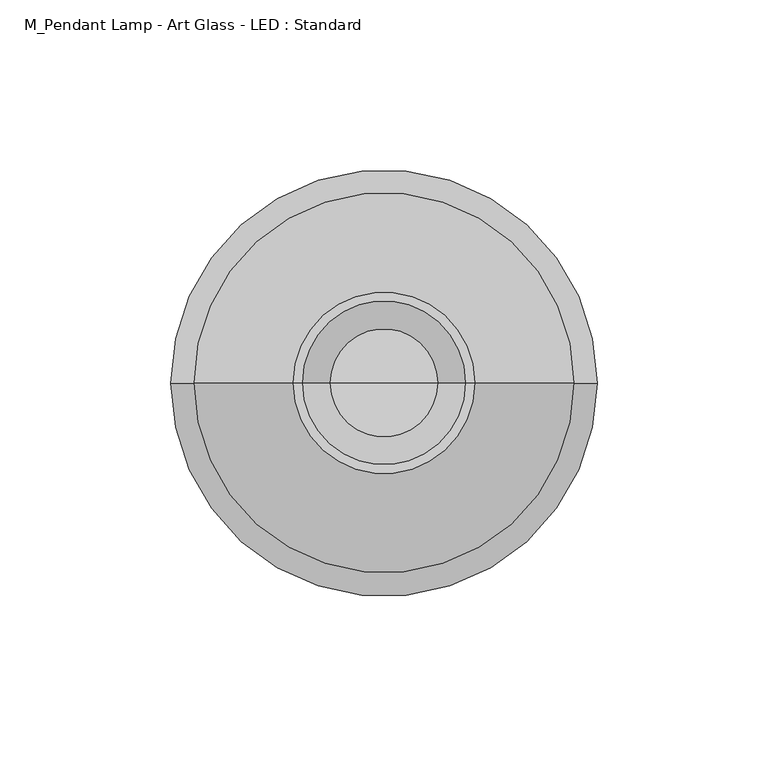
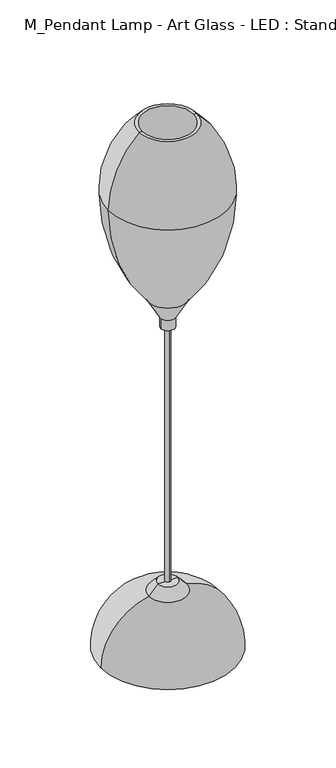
"""IFC4 building model written with IfcOpenShell, lengths in millimetres: light fixture geometry, M_Pendant Lamp - Art Glass - LED : Standard."""

import ifcopenshell
import ifcopenshell.guid

model = None  # the IFC model being written
_history = None  # IfcOwnerHistory: only IFC2X3 demands one
_inside = {}  # id of a spatial element -> (the spatial element, [elements in it])
_under = {}  # id of a project, library or spatial element -> (it, [spatial elements below it])
_declared = {}  # id of a project -> (the project, [libraries it declares])
_typed = {}  # id of a type object -> (the type object, [elements of that type])
_made_of = {}  # id of a material, layer set ... -> (it, [elements and type objects made of it])


def new_model(schema):
    """Start an empty IFC model of exactly this schema.

    Asked for "IFC4X3", IfcOpenShell would pick the latest addendum, in which some entities
    have other attributes; the version numbers below select the first issue.
    IFC2X3 requires an IfcOwnerHistory on every rooted entity: one is made here for all.
    """
    global model, _history
    if schema == "IFC4X3":
        model = ifcopenshell.file(schema_version=(4, 3, 0, 0))
    else:
        model = ifcopenshell.file(schema=schema)
    _inside.clear()
    _under.clear()
    _declared.clear()
    _typed.clear()
    _made_of.clear()
    _history = None
    if model.schema == "IFC2X3":
        org = make("IfcOrganization", Name="unknown")
        user = make(
            "IfcPersonAndOrganization",
            ThePerson=make("IfcPerson", FamilyName="unknown"),
            TheOrganization=org,
        )
        app = make(
            "IfcApplication",
            ApplicationDeveloper=org,
            Version="unknown",
            ApplicationFullName="unknown",
            ApplicationIdentifier="unknown",
        )
        _history = make(
            "IfcOwnerHistory",
            OwningUser=user,
            OwningApplication=app,
            ChangeAction="ADDED",
            CreationDate=0,
        )
    return model


def make(cls, **values):
    """One entity of the class cls with the attributes given. An attribute that is None is left unset."""
    return model.create_entity(
        cls, **{name: value for name, value in values.items() if value is not None}
    )


def rooted(cls, **values):
    """An entity with a GlobalId (a new one), such as an element, a storey or a relation."""
    return make(cls, GlobalId=ifcopenshell.guid.new(), OwnerHistory=_history, **values)


def si_unit(unit_type, name, prefix=None):
    """IfcSIUnit, for example si_unit("LENGTHUNIT", "METRE", prefix="MILLI")."""
    return make("IfcSIUnit", UnitType=unit_type, Prefix=prefix, Name=name)


def assignment(units):
    """IfcUnitAssignment: the units of a project."""
    return None if units is None else make("IfcUnitAssignment", Units=units)


def point(xyz):
    """IfcCartesianPoint."""
    return None if xyz is None else make("IfcCartesianPoint", Coordinates=xyz)


def direction(xyz):
    """IfcDirection."""
    return None if xyz is None else make("IfcDirection", DirectionRatios=xyz)


def frame(location, z_axis=None, x_axis=None):
    """IfcAxis2Placement3D, a coordinate frame: its origin and axes. An axis left out is left unset."""
    return make(
        "IfcAxis2Placement3D",
        Location=point(location),
        Axis=direction(z_axis),
        RefDirection=direction(x_axis),
    )


def frame_2d(location, x_axis=None):
    """IfcAxis2Placement2D, a coordinate frame in the plane: its origin and x axis."""
    return make(
        "IfcAxis2Placement2D", Location=point(location), RefDirection=direction(x_axis)
    )


def origin():
    """The frame at (0, 0, 0) with its axes left unset."""
    return frame((0.0, 0.0, 0.0))


def place(relative_to, where):
    """IfcLocalPlacement: puts the frame where relative to a parent placement (None: the world)."""
    return make(
        "IfcLocalPlacement", PlacementRelTo=relative_to, RelativePlacement=where
    )


def context(
    kind, dimensions, precision=None, world=None, true_north=None, identifier=None
):
    """IfcGeometricRepresentationContext, for example the 3D "Model" context."""
    return make(
        "IfcGeometricRepresentationContext",
        ContextIdentifier=identifier,
        ContextType=kind,
        CoordinateSpaceDimension=dimensions,
        Precision=precision,
        WorldCoordinateSystem=world,
        TrueNorth=true_north,
    )


def project(units=None, contexts=None):
    """IfcProject with its units and contexts."""
    return rooted(
        "IfcProject",
        Name="project",
        RepresentationContexts=contexts,
        UnitsInContext=assignment(units),
    )


def spatial(cls, under=None, at=None, **own):
    """A site, building, storey or space (cls), placed at a placement, below another one or the project."""
    s = rooted(cls, ObjectPlacement=at, **own)
    if under is not None:
        _under.setdefault(under.id(), (under, []))[1].append(s)
    return s


def polyline(points):
    """IfcPolyline through the points."""
    return make("IfcPolyline", Points=[point(p) for p in points])


def circle_curve(where, radius):
    """IfcCircle in the frame where."""
    return make("IfcCircle", Position=where, Radius=radius)


def ellipse_curve(where, semi_axis1, semi_axis2):
    """IfcEllipse in the frame where."""
    return make(
        "IfcEllipse", Position=where, SemiAxis1=semi_axis1, SemiAxis2=semi_axis2
    )


def trimmed(basis, trim1, trim2, sense, master):
    """IfcTrimmedCurve: the piece of a basis curve between two trims."""
    return make(
        "IfcTrimmedCurve",
        BasisCurve=basis,
        Trim1=trim1,
        Trim2=trim2,
        SenseAgreement=sense,
        MasterRepresentation=master,
    )


def segment(curve, same_sense, transition):
    """IfcCompositeCurveSegment."""
    return make(
        "IfcCompositeCurveSegment",
        Transition=transition,
        SameSense=same_sense,
        ParentCurve=curve,
    )


def composite_curve(segments, self_intersect=None):
    """IfcCompositeCurve: segments joined end to end."""
    return make("IfcCompositeCurve", Segments=segments, SelfIntersect=self_intersect)


def outline(outer, holes=None, kind="AREA"):
    """IfcArbitraryClosedProfileDef: a profile drawn as a closed curve; with holes, ...WithVoids."""
    if holes is None:
        return make("IfcArbitraryClosedProfileDef", ProfileType=kind, OuterCurve=outer)
    return make(
        "IfcArbitraryProfileDefWithVoids",
        ProfileType=kind,
        OuterCurve=outer,
        InnerCurves=holes,
    )


def extrude(swept, where, along, depth):
    """IfcExtrudedAreaSolid: the profile swept, set in the frame where, extruded along a direction by depth."""
    return make(
        "IfcExtrudedAreaSolid",
        SweptArea=swept,
        Position=where,
        ExtrudedDirection=direction(along),
        Depth=depth,
    )


def shape(context_of_items, identifier, shape_type, items):
    """IfcShapeRepresentation: the items that make up one representation, for example the "Body"."""
    return make(
        "IfcShapeRepresentation",
        ContextOfItems=context_of_items,
        RepresentationIdentifier=identifier,
        RepresentationType=shape_type,
        Items=items,
    )


def source(mapping_origin, context_of_items, identifier, shape_type, items):
    """IfcRepresentationMap: a shape defined once, which mapped items show again and again."""
    return make(
        "IfcRepresentationMap",
        MappingOrigin=mapping_origin,
        MappedRepresentation=shape(context_of_items, identifier, shape_type, items),
    )


def transform(
    local_origin,
    x_axis=None,
    y_axis=None,
    z_axis=None,
    scale=None,
    scale2=None,
    scale3=None,
    uniform=True,
):
    """IfcCartesianTransformationOperator3D, or its non-uniform kind. x_axis, y_axis, z_axis: its Axis1, 2, 3."""
    if uniform:
        return make(
            "IfcCartesianTransformationOperator3D",
            Axis1=direction(x_axis),
            Axis2=direction(y_axis),
            LocalOrigin=point(local_origin),
            Scale=scale,
            Axis3=direction(z_axis),
        )
    return make(
        "IfcCartesianTransformationOperator3DnonUniform",
        Axis1=direction(x_axis),
        Axis2=direction(y_axis),
        LocalOrigin=point(local_origin),
        Scale=scale,
        Axis3=direction(z_axis),
        Scale2=scale2,
        Scale3=scale3,
    )


def mapped(mapping_source, mapping_target):
    """IfcMappedItem: shows the shape of a source again, moved by a transform."""
    return make(
        "IfcMappedItem", MappingSource=mapping_source, MappingTarget=mapping_target
    )


def made_of(thing, what):
    """Note that an element or type object is made of a material, layer set ...; save() writes the relation."""
    if what is not None:
        _made_of.setdefault(what.id(), (what, []))[1].append(thing)
    return thing


def element(
    cls,
    number,
    at=None,
    inside=None,
    cuts=None,
    type_object=None,
    material=None,
    context=None,
    identifier="Body",
    shape_type=None,
    held_by="IfcProductDefinitionShape",
    body=None,
    shapes=None,
    **own,
):
    """One element of the class cls, such as IfcWall. Its Tag is "e" and its number.

    at: its placement. inside: the storey or other place that contains it. cuts: it is an
    opening in that element (IfcRelVoidsElement). A single representation is given by context,
    identifier, shape_type and body (its items); several are given by shapes. held_by: the class
    of the entity that holds the representations. save() writes the other relations.
    """
    e = rooted(cls, Tag="e%d" % number, ObjectPlacement=at, **own)
    if body is not None:
        shapes = [shape(context, identifier, shape_type, body)]
    if shapes is not None:
        e.Representation = make(held_by, Representations=shapes)
    if inside is not None:
        _inside.setdefault(inside.id(), (inside, []))[1].append(e)
    if cuts is not None:
        rooted(
            "IfcRelVoidsElement", RelatingBuildingElement=cuts, RelatedOpeningElement=e
        )
    if type_object is not None:
        _typed.setdefault(type_object.id(), (type_object, []))[1].append(e)
    return made_of(e, material)


def aggregate(whole, parts):
    """IfcRelAggregates: a whole, such as a stair, and the parts it consists of."""
    return rooted("IfcRelAggregates", RelatingObject=whole, RelatedObjects=parts)


def save(model, path):
    """Write the relations noted so far, then the file.

    IfcRelAggregates (storeys below a building ...), IfcRelContainedInSpatialStructure (elements
    in a storey), IfcRelDefinesByType, IfcRelAssociatesMaterial and IfcRelDeclares: one each for
    every whole, place, type object, material and project.
    """
    for whole, parts in _under.values():
        aggregate(whole, parts)
    for where, things in _inside.values():
        rooted(
            "IfcRelContainedInSpatialStructure",
            RelatedElements=things,
            RelatingStructure=where,
        )
    for kind, things in _typed.values():
        rooted("IfcRelDefinesByType", RelatedObjects=things, RelatingType=kind)
    for what, things in _made_of.values():
        rooted("IfcRelAssociatesMaterial", RelatedObjects=things, RelatingMaterial=what)
    for by, libraries in _declared.values():
        rooted("IfcRelDeclares", RelatingContext=by, RelatedDefinitions=libraries)
    model.write(path)


def plane_surface(at):
    """IfcPlane: the flat surface through the origin of the frame at, square to its z axis."""
    return make("IfcPlane", Position=at)


def cylinder_surface(at, radius):
    """IfcCylindricalSurface: all points at the distance radius from the z axis of the frame at."""
    return make("IfcCylindricalSurface", Position=at, Radius=radius)


def revolved_surface(curve, axis_point, axis_direction):
    """IfcSurfaceOfRevolution: the curve turned about the line through axis_point along axis_direction."""
    return make(
        "IfcSurfaceOfRevolution",
        SweptCurve=make("IfcArbitraryOpenProfileDef", ProfileType="CURVE", Curve=curve),
        AxisPosition=make("IfcAxis1Placement", Location=point(axis_point), Axis=direction(axis_direction)),
    )


def advanced_brep(points, edges, surfaces, faces):
    """IfcAdvancedBrep: a solid bounded by faces that lie on surfaces and meet in shared edges.

    An edge is (start, end): straight between two places in points (the first is 0);
    or (start, end, curve); or (start, end, curve, False) where it runs against its curve.
    A face is (place in surfaces, loops), or (place, loops, False) where it looks against
    its surface's normal. A loop lists edges by number (the first is 1), with a minus sign
    where the edge is run from its end to its start. The first loop is the outer one.
    """
    corners = [point(p) for p in points]
    vertices = [make("IfcVertexPoint", VertexGeometry=c) for c in corners]
    made = []
    for start, end, *more in edges:
        made.append(
            make(
                "IfcEdgeCurve",
                EdgeStart=vertices[start],
                EdgeEnd=vertices[end],
                EdgeGeometry=more[0] if more else make("IfcPolyline", Points=[corners[start], corners[end]]),
                SameSense=more[1] if len(more) > 1 else True,
            )
        )
    hull = []
    for where, loops, *sense in faces:
        bounds = []
        for j, loop in enumerate(loops):
            ring = [make("IfcOrientedEdge", EdgeElement=made[abs(k) - 1], Orientation=k > 0) for k in loop]
            bounds.append(
                make(
                    "IfcFaceOuterBound" if j == 0 else "IfcFaceBound",
                    Bound=make("IfcEdgeLoop", EdgeList=ring),
                    Orientation=True,
                )
            )
        hull.append(make("IfcAdvancedFace", Bounds=bounds, FaceSurface=surfaces[where], SameSense=sense[0] if sense else True))
    return make("IfcAdvancedBrep", Outer=make("IfcClosedShell", CfsFaces=hull))


def m_pendant_lamp_art_glass_led_standard_2036dae1(model_context):
    return source(origin(), model_context, "Body", "SolidModel", [
        advanced_brep(
        [(-19.1897668, 0.0, 343.98), (17.3638849, 0.0, 343.98), (14.9258339, 0.0, 343.98), (-16.7517158, 0.0, 343.98), (-56.475441, 0.0, 446.9409929), (54.649559, 0.0, 446.9409929), (-24.8838567, 0.0, 513.525), (23.0579748, 0.0, 513.525), (25.6239323, 0.0, 513.525), (-27.4498143, 0.0, 513.525), (53.3149972, 0.0, 446.9409929), (-55.1408791, 0.0, 446.9409929)],
        [
            (0, 1, circle_curve(frame((-0.912941, 0.0, 343.98), z_axis=(0.0, 0.0, -1.0), x_axis=(1.0, 0.0, 0.0)), 18.2768259)),
            (1, 2),
            (2, 3, circle_curve(frame((-0.912941, 0.0, 343.98), z_axis=(0.0, 0.0, 1.0), x_axis=(1.0, 0.0, 0.0)), 15.8387748)),
            (3, 0),
            (1, 0, circle_curve(frame((-0.912941, 0.0, 343.98), z_axis=(0.0, 0.0, -1.0), x_axis=(1.0, 0.0, 0.0)), 18.2768259)),
            (3, 2, circle_curve(frame((-0.912941, 0.0, 343.98), z_axis=(0.0, 0.0, 1.0), x_axis=(1.0, 0.0, 0.0)), 15.8387748)),
            (4, 5, circle_curve(frame((-0.912941, 0.0, 446.9409929), z_axis=(0.0, 0.0, -1.0), x_axis=(1.0, 0.0, 0.0)), 55.5625)),
            (5, 1, circle_curve(frame((-106.1519799, 0.0, 446.9409929), z_axis=(0.0, 1.0, 0.0), x_axis=(1.0, 0.0, 0.0)), 160.8015389)),
            (0, 4, circle_curve(frame((104.326098, 0.0, 446.9409929), z_axis=(0.0, 1.0, 0.0), x_axis=(-1.0, 0.0, 0.0)), 160.8015389)),
            (5, 4, circle_curve(frame((-0.912941, 0.0, 446.9409929), z_axis=(0.0, 0.0, -1.0), x_axis=(1.0, 0.0, 0.0)), 55.5625)),
            (6, 7, circle_curve(frame((-0.912941, 0.0, 513.525), z_axis=(0.0, 0.0, -1.0), x_axis=(1.0, 0.0, 0.0)), 23.9709158)),
            (7, 8),
            (8, 9, circle_curve(frame((-0.912941, 0.0, 513.525), z_axis=(0.0, 0.0, 1.0), x_axis=(1.0, 0.0, 0.0)), 26.5368733)),
            (9, 6),
            (7, 6, circle_curve(frame((-0.912941, 0.0, 513.525), z_axis=(0.0, 0.0, -1.0), x_axis=(1.0, 0.0, 0.0)), 23.9709158)),
            (9, 8, circle_curve(frame((-0.912941, 0.0, 513.525), z_axis=(0.0, 0.0, 1.0), x_axis=(1.0, 0.0, 0.0)), 26.5368733)),
            (2, 10, circle_curve(frame((-103.9519616, 0.0, 446.9409929), z_axis=(0.0, -1.0, 0.0), x_axis=(1.0, 0.0, 0.0)), 157.2669588)),
            (10, 11, circle_curve(frame((-0.912941, 0.0, 446.9409929), z_axis=(0.0, 0.0, 1.0), x_axis=(1.0, 0.0, 0.0)), 54.2279381)),
            (11, 3, circle_curve(frame((102.1260797, 0.0, 446.9409929), z_axis=(0.0, -1.0, 0.0), x_axis=(-1.0, 0.0, 0.0)), 157.2669588)),
            (11, 10, circle_curve(frame((-0.912941, 0.0, 446.9409929), z_axis=(0.0, 0.0, 1.0), x_axis=(1.0, 0.0, 0.0)), 54.2279381)),
            (8, 5, circle_curve(frame((-36.2342151, 0.0, 446.9409929), z_axis=(0.0, 1.0, 0.0), x_axis=(1.0, 0.0, 0.0)), 90.8837741)),
            (4, 9, circle_curve(frame((34.4083332, 0.0, 446.9409929), z_axis=(0.0, 1.0, 0.0), x_axis=(-1.0, 0.0, 0.0)), 90.8837741)),
            (10, 7, circle_curve(frame((-35.0763411, 0.0, 446.9409929), z_axis=(0.0, -1.0, 0.0), x_axis=(1.0, 0.0, 0.0)), 88.3913382)),
            (6, 11, circle_curve(frame((33.2504591, 0.0, 446.9409929), z_axis=(0.0, -1.0, 0.0), x_axis=(-1.0, 0.0, 0.0)), 88.3913382)),
        ],
        [
            plane_surface(frame((-0.912941, 0.0, 343.98), z_axis=(0.0, 0.0, -1.0), x_axis=(1.0, 0.0, 0.0))),
            revolved_surface(trimmed(ellipse_curve(frame((-106.1519799, 0.0, 446.9409929), z_axis=(0.0, -1.0, 0.0), x_axis=(1.0, 0.0, 0.0)), 160.8015389, 160.8015389), [point((17.3638849, 0.0, 343.98))], [point((54.649559, 0.0, 446.9409929))], True, "CARTESIAN"), (-0.912941, 0.0, 6089.7073186), (0.0, 0.0, 1.0)),
            plane_surface(frame((-0.912941, 0.0, 513.525), z_axis=(0.0, 0.0, 1.0), x_axis=(1.0, 0.0, 0.0))),
            revolved_surface(trimmed(ellipse_curve(frame((-103.9519616, 0.0, 446.9409929), z_axis=(0.0, 1.0, 0.0), x_axis=(1.0, 0.0, 0.0)), 157.2669588, 157.2669588), [point((53.3149972, 0.0, 446.9409929))], [point((14.9258339, 0.0, 343.98))], True, "CARTESIAN"), (-0.912941, 0.0, 6089.7073186), (0.0, 0.0, 1.0)),
            revolved_surface(trimmed(ellipse_curve(frame((-36.2342151, 0.0, 446.9409929), z_axis=(0.0, -1.0, 0.0), x_axis=(1.0, 0.0, 0.0)), 90.8837741, 90.8837741), [point((54.649559, 0.0, 446.9409929))], [point((25.6239323, 0.0, 513.525))], True, "CARTESIAN"), (-0.912941, 0.0, 6089.7073186), (0.0, 0.0, 1.0)),
            revolved_surface(trimmed(ellipse_curve(frame((-35.0763411, 0.0, 446.9409929), z_axis=(0.0, 1.0, 0.0), x_axis=(1.0, 0.0, 0.0)), 88.3913382, 88.3913382), [point((23.0579748, 0.0, 513.525))], [point((53.3149972, 0.0, 446.9409929))], True, "CARTESIAN"), (-0.912941, 0.0, 6089.7073186), (0.0, 0.0, 1.0)),
        ],
        [
            (0, [[1, 2, 3, 4]]),
            (0, [[5, -4, 6, -2]]),
            (1, [[7, 8, -1, 9]]),
            (1, [[10, -9, -5, -8]]),
            (2, [[11, 12, 13, 14]]),
            (2, [[15, -14, 16, -12]]),
            (3, [[-3, 17, 18, 19]]),
            (3, [[-6, -19, 20, -17]]),
            (4, [[-13, 21, -7, 22]]),
            (4, [[-16, -22, -10, -21]]),
            (5, [[-18, 23, -11, 24]]),
            (5, [[-20, -24, -15, -23]]),
        ],
    ),
        advanced_brep(
        [(-7.262941, 0.0, 323.3221316), (5.437059, 0.0, 323.3221316), (5.437059, 0.0, 313.5), (-7.262941, 0.0, 313.5), (-19.1897668, 0.0, 343.98), (17.3638849, 0.0, 343.98), (-0.912941, 0.0, 343.98), (-0.912941, 0.0, 313.5)],
        [
            (0, 1, circle_curve(frame((-0.912941, 0.0, 323.3221316), z_axis=(0.0, 0.0, -1.0), x_axis=(1.0, 0.0, 0.0)), 6.35)),
            (1, 2),
            (2, 3, circle_curve(frame((-0.912941, 0.0, 313.5), z_axis=(0.0, 0.0, 1.0), x_axis=(1.0, 0.0, 0.0)), 6.35)),
            (3, 0),
            (1, 0, circle_curve(frame((-0.912941, 0.0, 323.3221316), z_axis=(0.0, 0.0, -1.0), x_axis=(1.0, 0.0, 0.0)), 6.35)),
            (3, 2, circle_curve(frame((-0.912941, 0.0, 313.5), z_axis=(0.0, 0.0, 1.0), x_axis=(1.0, 0.0, 0.0)), 6.35)),
            (4, 5, circle_curve(frame((-0.912941, 0.0, 343.98), z_axis=(0.0, 0.0, -1.0), x_axis=(1.0, 0.0, 0.0)), 18.2768259)),
            (5, 1),
            (0, 4),
            (5, 4, circle_curve(frame((-0.912941, 0.0, 343.98), z_axis=(0.0, 0.0, -1.0), x_axis=(1.0, 0.0, 0.0)), 18.2768259)),
            (6, 5),
            (4, 6),
            (2, 7),
            (7, 3),
        ],
        [
            cylinder_surface(frame((-0.912941, 0.0, 6089.7073186), z_axis=(0.0, 0.0, 1.0), x_axis=(1.0, 0.0, 0.0)), 6.35),
            revolved_surface(polyline([(5.437059, 0.0, 323.3221316), (17.3638849, 0.0, 343.98)]), (-0.912941, 0.0, 6089.7073186), (0.0, 0.0, 1.0)),
            plane_surface(frame((-0.912941, 0.0, 343.98), z_axis=(0.0, 0.0, 1.0), x_axis=(1.0, 0.0, 0.0))),
            plane_surface(frame((-0.912941, 0.0, 313.5), z_axis=(0.0, 0.0, -1.0), x_axis=(1.0, 0.0, 0.0))),
        ],
        [
            (0, [[1, 2, 3, 4]]),
            (0, [[5, -4, 6, -2]]),
            (1, [[7, 8, -1, 9]]),
            (1, [[10, -9, -5, -8]]),
            (2, [[11, -7, 12]]),
            (2, [[-12, -10, -11]]),
            (3, [[-3, 13, 14]]),
            (3, [[-6, -14, -13]]),
        ],
    ),
        advanced_brep(
        [(-18.6253579, 0.0, 54.4766065), (16.799476, 0.0, 54.4766065), (61.4307936, 0.0, 0.0), (-63.2566756, 0.0, 0.0), (-0.912941, 0.0, 0.0), (-10.0214773, 0.0, 63.5), (8.1955954, 0.0, 63.5), (-0.912941, 0.0, 63.5)],
        [
            (0, 1, circle_curve(frame((-0.912941, 0.0, 54.4766065), z_axis=(0.0, 0.0, -1.0), x_axis=(1.0, 0.0, 0.0)), 17.712417)),
            (1, 2, circle_curve(frame((5.8682936, 0.0, 0.0), z_axis=(0.0, 1.0, 0.0), x_axis=(1.0, 0.0, 0.0)), 55.5625)),
            (2, 3, circle_curve(frame((-0.912941, 0.0, 0.0), z_axis=(0.0, 0.0, 1.0), x_axis=(1.0, 0.0, 0.0)), 62.3437346)),
            (3, 0, circle_curve(frame((-7.6941756, 0.0, 0.0), z_axis=(0.0, 1.0, 0.0), x_axis=(-1.0, 0.0, 0.0)), 55.5625)),
            (1, 0, circle_curve(frame((-0.912941, 0.0, 54.4766065), z_axis=(0.0, 0.0, -1.0), x_axis=(1.0, 0.0, 0.0)), 17.712417)),
            (3, 2, circle_curve(frame((-0.912941, 0.0, 0.0), z_axis=(0.0, 0.0, 1.0), x_axis=(1.0, 0.0, 0.0)), 62.3437346)),
            (2, 4),
            (4, 3),
            (5, 6, circle_curve(frame((-0.912941, 0.0, 63.5), z_axis=(0.0, 0.0, -1.0), x_axis=(1.0, 0.0, 0.0)), 9.1085364)),
            (6, 1),
            (0, 5),
            (6, 5, circle_curve(frame((-0.912941, 0.0, 63.5), z_axis=(0.0, 0.0, -1.0), x_axis=(1.0, 0.0, 0.0)), 9.1085364)),
            (7, 6),
            (5, 7),
        ],
        [
            revolved_surface(trimmed(ellipse_curve(frame((5.8682936, 0.0, 0.0), z_axis=(0.0, -1.0, 0.0), x_axis=(1.0, 0.0, 0.0)), 55.5625, 55.5625), [point((61.4307936, 0.0, 0.0))], [point((16.799476, 0.0, 54.4766065))], True, "CARTESIAN"), (-0.912941, 0.0, 737.9471624), (0.0, 0.0, 1.0)),
            plane_surface(frame((-0.912941, 0.0, 0.0), z_axis=(0.0, 0.0, -1.0), x_axis=(1.0, 0.0, 0.0))),
            revolved_surface(polyline([(16.799476, 0.0, 54.4766065), (8.1955954, 0.0, 63.5)]), (-0.912941, 0.0, 737.9471624), (0.0, 0.0, 1.0)),
            plane_surface(frame((-0.912941, 0.0, 63.5), z_axis=(0.0, 0.0, 1.0), x_axis=(1.0, 0.0, 0.0))),
        ],
        [
            (0, [[1, 2, 3, 4]]),
            (0, [[5, -4, 6, -2]]),
            (1, [[-3, 7, 8]]),
            (1, [[-6, -8, -7]]),
            (2, [[9, 10, -1, 11]]),
            (2, [[12, -11, -5, -10]]),
            (3, [[13, -9, 14]]),
            (3, [[-14, -12, -13]]),
        ],
    ),
        extrude(outline(composite_curve([segment(trimmed(circle_curve(frame_2d((-0.912941, 0.0)), 2.54), [point((-0.912941, 2.54))], [point((-0.912941, -2.54))], False, "CARTESIAN"), True, "CONTINUOUS"), segment(trimmed(circle_curve(frame_2d((-0.912941, 0.0)), 2.54), [point((-0.912941, -2.54))], [point((-0.912941, 2.54))], False, "CARTESIAN"), True, "CONTINUOUS")], self_intersect=False)), frame((0.0, 0.0, 63.5), z_axis=(0.0, 0.0, 1.0), x_axis=(1.0, 0.0, 0.0)), (0.0, 0.0, 1.0), 250.0),
    ])


if __name__ == "__main__":
    model = new_model("IFC4")
    model_context = context("Model", 3, world=origin())
    ifc_project = project(units=[si_unit("LENGTHUNIT", "METRE", prefix="MILLI")], contexts=[model_context])
    site = spatial("IfcSite", under=ifc_project)
    building = spatial("IfcBuilding", under=site)
    placement = place(None, origin())
    m_pendant_lamp_art_glass_led_standard_shape = m_pendant_lamp_art_glass_led_standard_2036dae1(model_context)
    element("IfcLightFixture", 1, ObjectType="M_Pendant Lamp - Art Glass - LED : Standard", at=placement, inside=building, context=model_context, shape_type="MappedRepresentation", body=[
        mapped(m_pendant_lamp_art_glass_led_standard_shape, transform((0.0, 0.0, 0.0), x_axis=(1.0, 0.0, 0.0), y_axis=(0.0, 1.0, 0.0), z_axis=(0.0, 0.0, 1.0))),
    ])
    save(model, "model.ifc")
